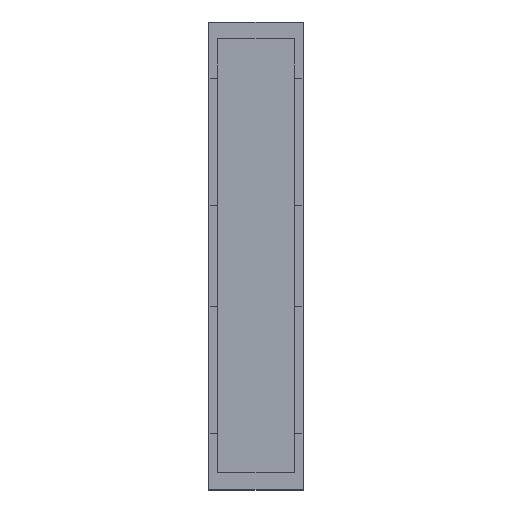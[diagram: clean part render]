
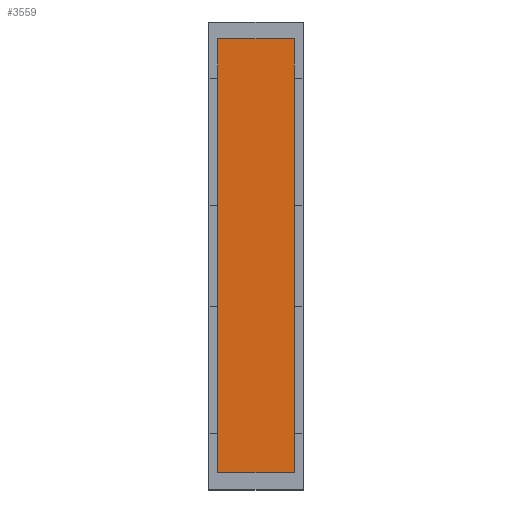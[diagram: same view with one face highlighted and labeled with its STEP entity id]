
A CAD part, top view. The second image highlights one B-rep face of the part: STEP entity #3559.
In plain terms, the highlighted planar face has unit normal (0, 0, 1).
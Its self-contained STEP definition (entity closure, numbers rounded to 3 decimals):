
#1081=CARTESIAN_POINT('',(11.4,55.1,43.6));
#1082=VERTEX_POINT('',#1081);
#1342=CARTESIAN_POINT('',(1.2,24.5,43.6));
#1343=VERTEX_POINT('',#1342);
#1352=CARTESIAN_POINT('',(1.2,38.1,43.6));
#1353=VERTEX_POINT('',#1352);
#1354=CARTESIAN_POINT('',(1.2,24.5,43.6));
#1355=DIRECTION('',(0.,1.,0.));
#1356=VECTOR('',#1355,13.6);
#1357=LINE('',#1354,#1356);
#1358=EDGE_CURVE('',#1343,#1353,#1357,.T.);
#1432=CARTESIAN_POINT('',(11.4,38.1,43.6));
#1433=VERTEX_POINT('',#1432);
#1670=CARTESIAN_POINT('',(11.4,24.5,43.6));
#1671=VERTEX_POINT('',#1670);
#2046=CARTESIAN_POINT('',(11.4,7.5,43.6));
#2047=VERTEX_POINT('',#2046);
#3175=CARTESIAN_POINT('',(11.4,38.1,43.6));
#3176=DIRECTION('',(0.,-1.,0.));
#3177=VECTOR('',#3176,13.6);
#3178=LINE('',#3175,#3177);
#3179=EDGE_CURVE('',#1433,#1671,#3178,.T.);
#3221=CARTESIAN_POINT('',(1.2,55.1,43.6));
#3222=VERTEX_POINT('',#3221);
#3254=CARTESIAN_POINT('',(1.2,60.343,43.6));
#3255=VERTEX_POINT('',#3254);
#3256=CARTESIAN_POINT('',(1.2,55.1,43.6));
#3257=DIRECTION('',(0.,1.,0.));
#3258=VECTOR('',#3257,5.243);
#3259=LINE('',#3256,#3258);
#3260=EDGE_CURVE('',#3222,#3255,#3259,.T.);
#3278=CARTESIAN_POINT('',(11.4,60.343,43.6));
#3279=VERTEX_POINT('',#3278);
#3286=CARTESIAN_POINT('',(11.4,60.343,43.6));
#3287=DIRECTION('',(0.,-1.,0.));
#3288=VECTOR('',#3287,5.243);
#3289=LINE('',#3286,#3288);
#3290=EDGE_CURVE('',#3279,#1082,#3289,.T.);
#3302=CARTESIAN_POINT('',(11.4,2.279,43.6));
#3303=VERTEX_POINT('',#3302);
#3310=CARTESIAN_POINT('',(1.2,2.279,43.6));
#3311=VERTEX_POINT('',#3310);
#3312=CARTESIAN_POINT('',(11.4,2.279,43.6));
#3313=DIRECTION('',(-1.,0.,0.));
#3314=VECTOR('',#3313,10.2);
#3315=LINE('',#3312,#3314);
#3316=EDGE_CURVE('',#3303,#3311,#3315,.T.);
#3334=CARTESIAN_POINT('',(1.2,7.5,43.6));
#3335=VERTEX_POINT('',#3334);
#3407=CARTESIAN_POINT('',(11.4,7.5,43.6));
#3408=DIRECTION('',(0.,-1.,0.));
#3409=VECTOR('',#3408,5.221);
#3410=LINE('',#3407,#3409);
#3411=EDGE_CURVE('',#2047,#3303,#3410,.T.);
#3425=CARTESIAN_POINT('',(1.2,60.343,43.6));
#3426=DIRECTION('',(1.,0.,-0.));
#3427=VECTOR('',#3426,10.2);
#3428=LINE('',#3425,#3427);
#3429=EDGE_CURVE('',#3255,#3279,#3428,.T.);
#3442=CARTESIAN_POINT('',(1.2,2.279,43.6));
#3443=DIRECTION('',(0.,1.,0.));
#3444=VECTOR('',#3443,5.221);
#3445=LINE('',#3442,#3444);
#3446=EDGE_CURVE('',#3311,#3335,#3445,.T.);
#3514=CARTESIAN_POINT('',(11.4,55.1,43.6));
#3515=DIRECTION('',(-0.,-1.,-0.));
#3516=VECTOR('',#3515,17.);
#3517=LINE('',#3514,#3516);
#3518=EDGE_CURVE('',#1082,#1433,#3517,.T.);
#3525=CARTESIAN_POINT('',(6.3,16.,43.6));
#3526=DIRECTION('',(0.,0.,1.));
#3527=DIRECTION('',(0.,-1.,0.));
#3528=AXIS2_PLACEMENT_3D('',#3525,#3526,#3527);
#3529=PLANE('',#3528);
#3530=ORIENTED_EDGE('',*,*,#3260,.F.);
#3531=CARTESIAN_POINT('',(1.2,38.1,43.6));
#3532=DIRECTION('',(-0.,1.,-0.));
#3533=VECTOR('',#3532,17.);
#3534=LINE('',#3531,#3533);
#3535=EDGE_CURVE('',#1353,#3222,#3534,.T.);
#3536=ORIENTED_EDGE('',*,*,#3535,.F.);
#3537=ORIENTED_EDGE('',*,*,#1358,.F.);
#3538=CARTESIAN_POINT('',(1.2,7.5,43.6));
#3539=DIRECTION('',(-0.,1.,-0.));
#3540=VECTOR('',#3539,17.);
#3541=LINE('',#3538,#3540);
#3542=EDGE_CURVE('',#3335,#1343,#3541,.T.);
#3543=ORIENTED_EDGE('',*,*,#3542,.F.);
#3544=ORIENTED_EDGE('',*,*,#3446,.F.);
#3545=ORIENTED_EDGE('',*,*,#3316,.F.);
#3546=ORIENTED_EDGE('',*,*,#3411,.F.);
#3547=CARTESIAN_POINT('',(11.4,24.5,43.6));
#3548=DIRECTION('',(-0.,-1.,-0.));
#3549=VECTOR('',#3548,17.);
#3550=LINE('',#3547,#3549);
#3551=EDGE_CURVE('',#1671,#2047,#3550,.T.);
#3552=ORIENTED_EDGE('',*,*,#3551,.F.);
#3553=ORIENTED_EDGE('',*,*,#3179,.F.);
#3554=ORIENTED_EDGE('',*,*,#3518,.F.);
#3555=ORIENTED_EDGE('',*,*,#3290,.F.);
#3556=ORIENTED_EDGE('',*,*,#3429,.F.);
#3557=EDGE_LOOP('',(#3530,#3536,#3537,#3543,#3544,#3545,#3546,#3552,#3553,#3554,#3555,#3556));
#3558=FACE_BOUND('',#3557,.T.);
#3559=ADVANCED_FACE('',(#3558),#3529,.T.);
